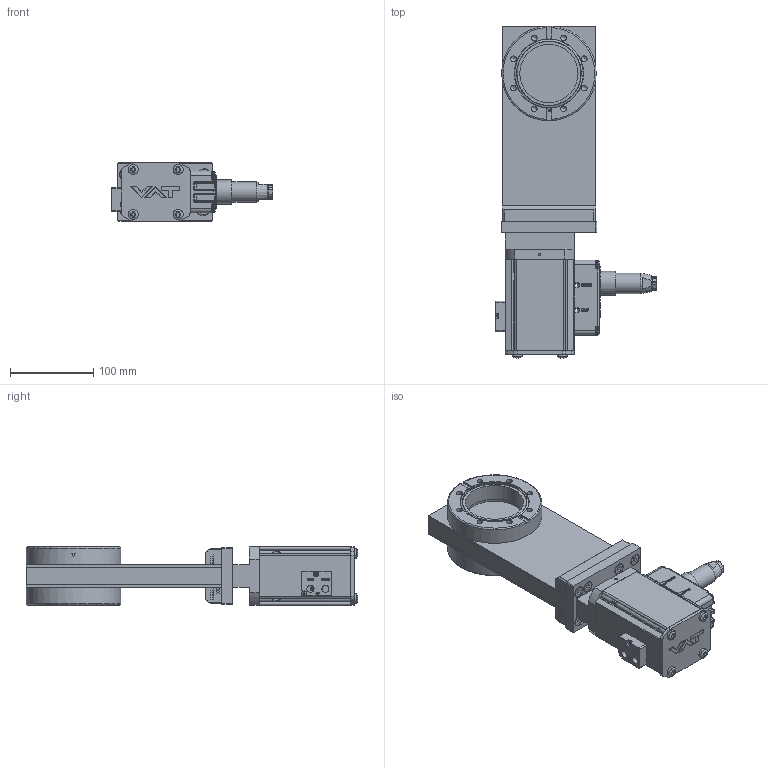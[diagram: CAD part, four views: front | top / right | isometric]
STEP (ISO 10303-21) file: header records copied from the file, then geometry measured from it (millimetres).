
FILE_DESCRIPTION(/* description */ (''),/* implementation_level */ '2;1');
FILE_NAME(/* name */ '1010244472_203.stp',/* time_stamp */ '2016-01-11T06:52:15+01:00',/* author */ (''),/* organization */ (''),/* preprocessor_version */ 'ST-DEVELOPER v15',/* originating_system */ 'SIEMENS PLM Software NX 9.0',/* authorisation */ '');
FILE_SCHEMA (('AP203_CONFIGURATION_CONTROLLED_3D_DESIGN_OF_MECHANICAL_PARTS_AND_ASSEMBLIES_MIM_LF { 1 0 10303 403 2 1 2}'));
Products named in the file (35): 441451_24143ID; 21436-01.1_24156ID; 21437-01.1_24155ID; 21438-01.1; 441451_24152ID; 21437-01.1_24151ID; 21436-01.1_24145ID; 70973-01.1; 70988-01.1; n-8504-002; n-6024-548.1; 70987-01.1; n-6024-526; N-7100-014_2.1; 94828-01.1; N-7100-012_3.1; N-6024-571.1; 85948-01.1; 94221-01.1; 73002-01.1; 69127.1; 72872-01.1; 21450-01.1_24147ID; 21450-01.1; n-6099-454.1; 63215-01.1; 218198.1; 790428; 790526_MODEL; 94827-r1.1; 94234-r1.2; 82467-r1.1; 22974-r1.2_MODEL; 22973.2_MODEL; 205626.2
Assembly tree (53 placements, depth 4):
  205626.2
    22973.2_MODEL
      n-6099-454.1  x2
      21450-01.1
      21450-01.1_24147ID
      22974-r1.2_MODEL
        21436-01.1_24145ID
        21437-01.1_24151ID
        441451_24152ID
        21438-01.1
        21437-01.1_24155ID
        21436-01.1_24156ID
        441451_24143ID
    790428
    82467-r1.1
      72872-01.1
      69127.1
    218198.1  x8
    63215-01.1
    94234-r1.2
      73002-01.1  x4
      94221-01.1
      85948-01.1
      N-6024-571.1  x4
    94827-r1.1
      N-7100-012_3.1
      94828-01.1
      N-7100-014_2.1
      n-6024-526  x2
    790526_MODEL
      70987-01.1
      n-6024-548.1  x4
      n-8504-002
      70988-01.1  x2
      70973-01.1
Bounding box: 193.75 x 399.02 x 70 mm (x, y, z)
Volume: 1244744.9 mm3; surface area: 438715.8 mm2
Topology: 123 solids, 123 shells, 2698 faces, 6812 edges, 4601 vertices
Faces by surface type: plane 1935, cylinder 460, torus 104, cone 94, extrusion 87, sphere 10, bspline 8
Full cylindrical faces by diameter (mm): 0.7 x1, 1.66 x7, 2 x30, 2.125 x1, 2.5 x16, 2.65 x1, 2.8 x2, 3 x5, 3.3 x6, 4 x10, 4.2 x3, 4.35 x2, 4.4 x4, 4.45 x4, 4.625 x4, 4.75 x8, 5 x7, 5.9 x1, 6 x14, 6.6 x4, 6.66 x8, 6.7 x8, 6.8 x28, 7.05 x1, 7.5 x4, 7.982 x4, 8 x20, 8.611 x2, 9 x8, 9.1 x1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
Entity records: 81597 total; most frequent: CARTESIAN_POINT 19292, ORIENTED_EDGE 11018, DIRECTION 9910, EDGE_CURVE 5509, VERTEX_POINT 3924, VECTOR 3384, LINE 3297, AXIS2_PLACEMENT_3D 3263
